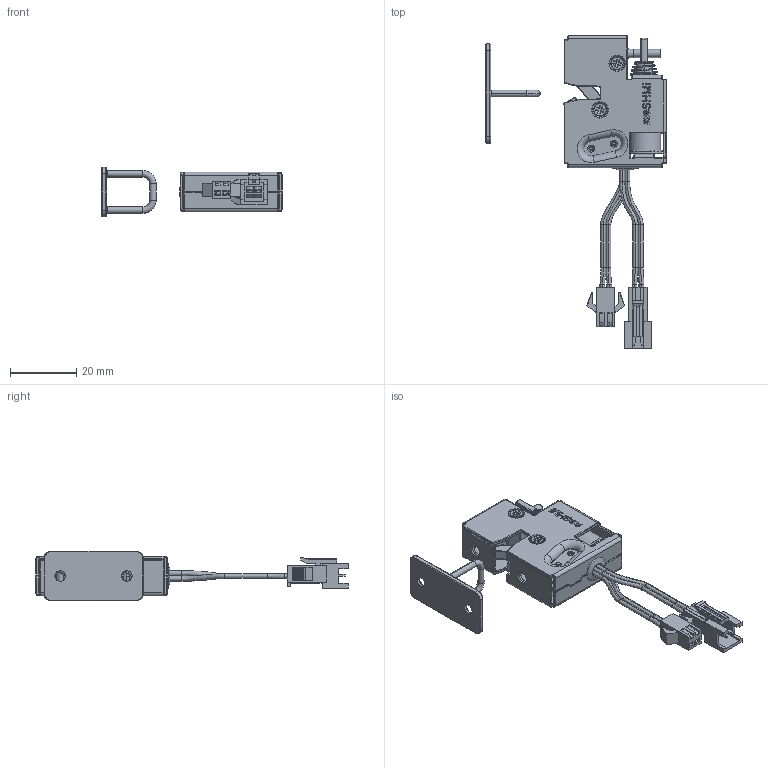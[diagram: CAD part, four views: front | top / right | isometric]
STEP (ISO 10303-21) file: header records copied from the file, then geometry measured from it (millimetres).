
FILE_DESCRIPTION((''),'2;1');
FILE_NAME('XG4031-B00_ASM','2025-10-13T09:37:16',('PRIME'),(''),'CREO PARAMETRIC BY PTC INC, 2023073','CREO PARAMETRIC BY PTC INC, 2023073','');
FILE_SCHEMA(('CONFIG_CONTROL_DESIGN','SHAPE_APPEARANCE_LAYERS_GROUPS'));
Products named in the file (11): XG4031-_B00; XG0431-_B00; M3_B00; XG4031-1_B000; XG4031-2_B000; XG4031-_B000; SM254--_B0001; _B00; XG4031-B00_ASM
Assembly tree (11 placements, depth 2):
  XG4031-B00_ASM
    XG4031-_B00
    XG0431-_B00
    M3_B00  x2
    XG4031-1_B000
    XG4031-2_B000
    XG4031-_B000
    SM254--_B0001
    _B00
    _B00
    _B00
Bounding box: 54.73 x 94.77 x 15 mm (x, y, z)
Volume: 6667.4 mm3; surface area: 14323.9 mm2
Topology: 15 solids, 15 shells, 1778 faces, 4152 edges, 2442 vertices
Faces by surface type: plane 669, cylinder 567, torus 266, bspline 130, sphere 128, cone 12, revolution 6
Entity records: 71568 total; most frequent: CARTESIAN_POINT 16639, DIRECTION 8509, ORIENTED_EDGE 7948, EDGE_CURVE 3974, AXIS2_PLACEMENT_3D 3143, VERTEX_POINT 2344, VECTOR 2217, LINE 2217
